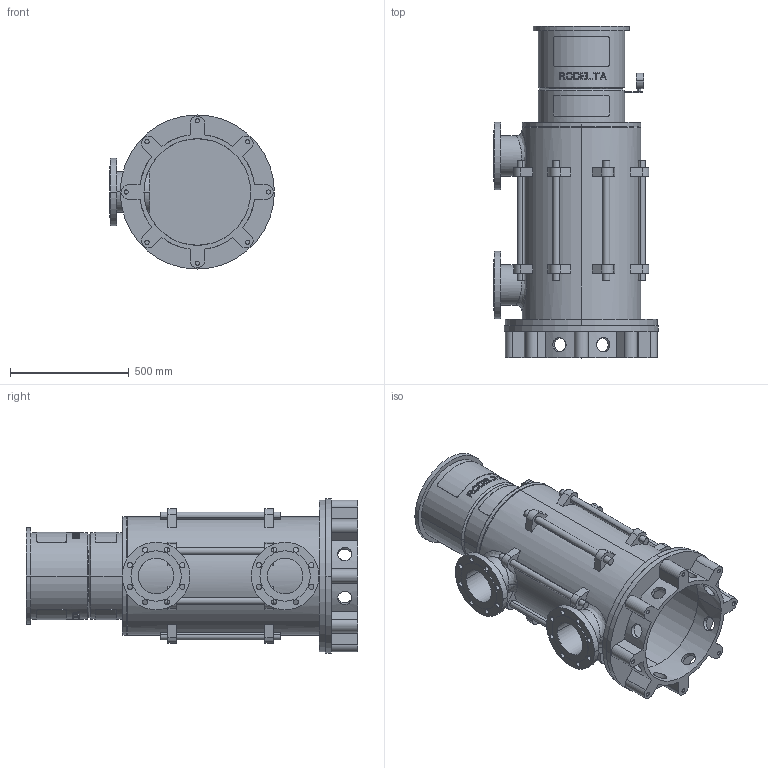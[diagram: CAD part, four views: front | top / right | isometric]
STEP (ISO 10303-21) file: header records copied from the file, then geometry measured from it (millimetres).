
FILE_DESCRIPTION((''),'2;1');
FILE_NAME('LS6_3TR_0GR_PN16_TOT_30KW','2025-10-23T11:39:21',('Lyritlocal'),(''),'CREO PARAMETRIC BY PTC INC, 2022014','CREO PARAMETRIC BY PTC INC, 2022014','');
FILE_SCHEMA(('CONFIG_CONTROL_DESIGN'));
Length unit declared in the file: millimetre
Products named in the file (1): LS6_3TR_0GR_PN16_TOT_30KW
Bounding box: 695 x 1399 x 650 mm (x, y, z)
Volume: 45458032 mm3; surface area: 6032130.8 mm2
Topology: 3 solids, 11 shells, 732 faces, 1889 edges, 1258 vertices
Faces by surface type: plane 438, cylinder 274, cone 12, bspline 8
Entity records: 24248 total; most frequent: CARTESIAN_POINT 6428, ORIENTED_EDGE 3746, DIRECTION 3535, EDGE_CURVE 1889, AXIS2_PLACEMENT_3D 1341, VERTEX_POINT 1258, EDGE_LOOP 895, VECTOR 853
